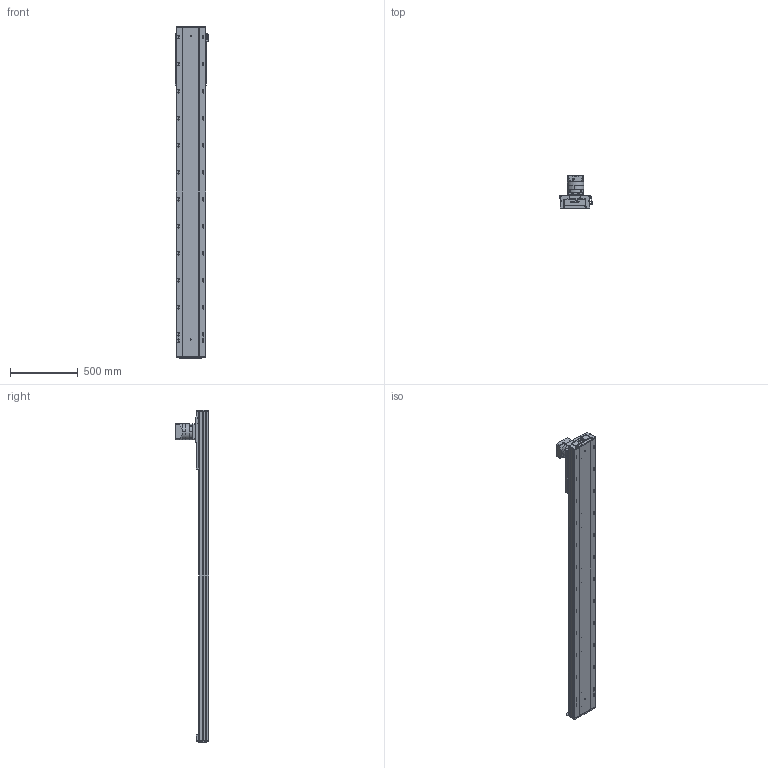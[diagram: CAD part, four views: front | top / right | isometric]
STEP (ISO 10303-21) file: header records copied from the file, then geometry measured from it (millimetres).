
FILE_DESCRIPTION (( 'STEP AP203' ), '1' );
FILE_NAME ('RY220-C-300-UK.SLDASM_1950.step', '2022-08-01T05:59:45', ( '' ), ( '' ), 'SwSTEP 2.0', 'SolidWorks 2016', '' );
FILE_SCHEMA (( 'CONFIG_CONTROL_DESIGN' ));
Length unit declared in the file: millimetre
Products named in the file (10): RY220-C-300-UK.SLDASM_1950; 滅袉蝶輸ㄗG412隅秶ㄘ; RY220喘沭賑輸; 覜茼ん674; RY220喘沭綴裔啣; RY220-齿条模组电机安装板; PF115L1-S2-22-58-110-145-M8; RY220菁釱MK-300_1950; RY140直线电机感应器674光电安装座; RY220喘沭俋离覜茼え
Assembly tree (12 placements, depth 2):
  RY220-C-300-UK.SLDASM_1950
    RY220菁釱MK-300_1950
    RY220喘沭賑輸
    RY220-齿条模组电机安装板
    PF115L1-S2-22-58-110-145-M8
    RY220喘沭綴裔啣  x2
    滅袉蝶輸ㄗG412隅秶ㄘ  x2
    RY140直线电机感应器674光电安装座
    覜茼ん674  x2
    RY220喘沭俋离覜茼え
Bounding box: 247 x 244.5 x 2459 mm (x, y, z)
Volume: 17504059.7 mm3; surface area: 3549294.3 mm2
Topology: 18 solids, 26 shells, 2200 faces, 5919 edges, 3724 vertices
Faces by surface type: cylinder 1047, plane 751, cone 240, bspline 162
Entity records: 69885 total; most frequent: CARTESIAN_POINT 19092, DIRECTION 10451, ORIENTED_EDGE 10258, EDGE_CURVE 5129, AXIS2_PLACEMENT_3D 3991, VERTEX_POINT 3350, EDGE_LOOP 2547, LINE 2469
